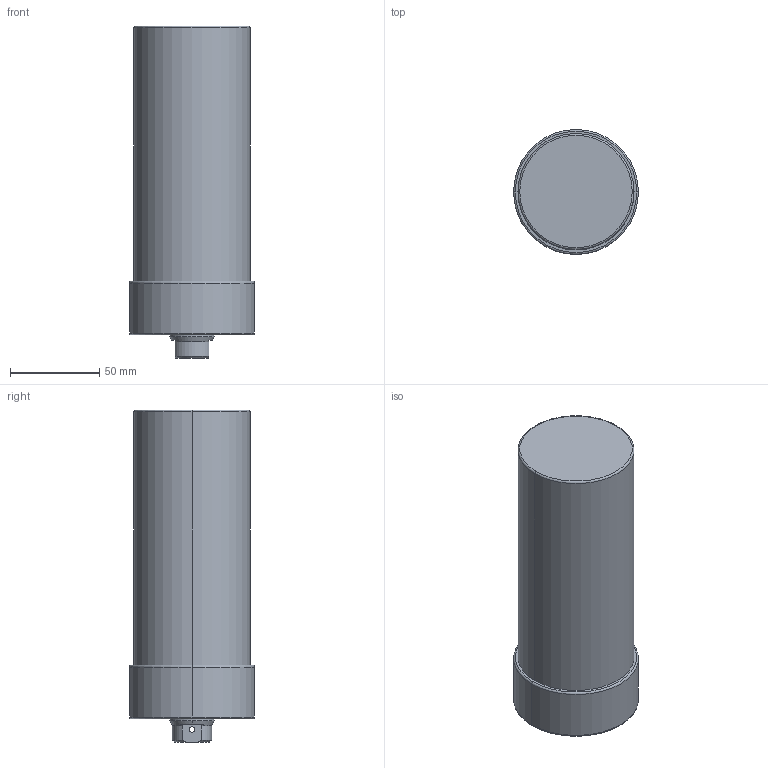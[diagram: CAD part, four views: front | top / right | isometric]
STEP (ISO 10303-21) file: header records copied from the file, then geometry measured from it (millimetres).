
FILE_DESCRIPTION (( 'STEP AP203' ), '1' );
FILE_NAME ('CLLU-065GB-110.STEP', '2020-01-07T06:45:20', ( '' ), ( '' ), 'SwSTEP 2.0', 'SolidWorks 2015', '' );
FILE_SCHEMA (( 'CONFIG_CONTROL_DESIGN' ));
Length unit declared in the file: millimetre
Products named in the file (1): CLLU-065GB-110
Bounding box: 70 x 70 x 186 mm (x, y, z)
Volume: 590342.8 mm3; surface area: 46282.3 mm2
Topology: 1 solids, 1 shells, 66 faces, 154 edges, 87 vertices
Faces by surface type: cylinder 26, cone 24, plane 10, torus 6
Entity records: 2001 total; most frequent: CARTESIAN_POINT 430, DIRECTION 342, ORIENTED_EDGE 288, EDGE_CURVE 144, AXIS2_PLACEMENT_3D 143, VERTEX_POINT 87, EDGE_LOOP 77, CIRCLE 76
